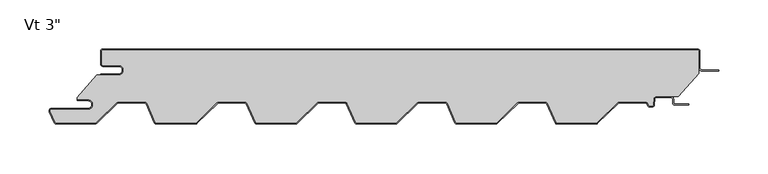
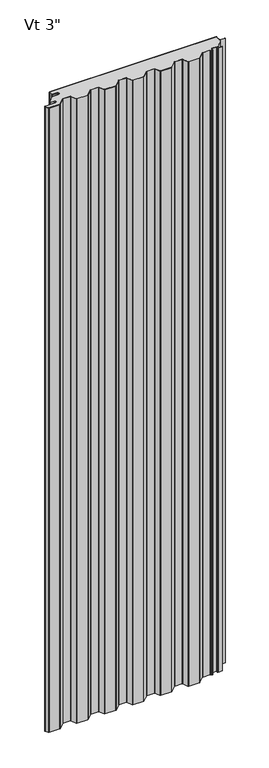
"""IFC4 building model written with IfcOpenShell, lengths in millimetres: plate geometry."""

from ifc_helpers import new_model, si_unit, point, frame_2d, origin, origin_with_axes, place, context, project, spatial, polyline, circle_curve, trimmed, segment, composite_curve, outline, extrude, source, transform, mapped, element, save


def plate_1c8a40f6(model_context):
    return source(origin(), model_context, "Body", "SweptSolid", [
        extrude(outline(composite_curve([segment(trimmed(circle_curve(frame_2d((-285.74375, -21.4324412)), 4.96875), [point((-285.74375, -26.4011912))], [point((-285.74375, -16.4636912))], True, "CARTESIAN"), True, "CONTINUOUS"), segment(polyline([(-285.74375, -16.4636912), (-301.61875, -16.4636912)]), True, "CONTINUOUS"), segment(trimmed(circle_curve(frame_2d((-301.61875, -15.0824412)), 1.38125), [point((-301.61875, -16.4636912))], [point((-303.0, -15.0824412))], False, "CARTESIAN"), True, "CONTINUOUS"), segment(polyline([(-303.0, -15.0824412), (-303.0, -2.3824412)]), True, "CONTINUOUS"), segment(trimmed(circle_curve(frame_2d((-301.61875, -2.3824412)), 1.38125), [point((-303.0, -2.3824412))], [point((-301.61875, -1.0011912))], False, "CARTESIAN"), True, "CONTINUOUS"), segment(polyline([(-301.61875, -1.0011912), (301.63125, -1.0011912)]), True, "CONTINUOUS"), segment(trimmed(circle_curve(frame_2d((301.63125, -2.3824412)), 1.38125), [point((301.63125, -1.0011912))], [point((303.0125, -2.3824412))], False, "CARTESIAN"), True, "CONTINUOUS"), segment(polyline([(303.0125, -2.3824412), (303.0125, -24.8719682), (282.1955434, -48.2136912), (259.7683457, -48.2136912)]), True, "CONTINUOUS"), segment(trimmed(circle_curve(frame_2d((259.7683457, -50.8011912)), 2.5875), [point((259.7683457, -48.2136912))], [point((257.1843918, -50.6657719))], True, "CARTESIAN"), True, "CONTINUOUS"), segment(polyline([(257.1843918, -50.6657719), (256.8823155, -56.4297302)]), True, "CONTINUOUS"), segment(trimmed(circle_curve(frame_2d((255.5029585, -56.3574412)), 1.38125), [point((256.8823155, -56.4297302))], [point((255.5029585, -57.7386912))], False, "CARTESIAN"), True, "CONTINUOUS"), segment(polyline([(255.5029585, -57.7386912), (253.1754519, -57.7386912)]), True, "CONTINUOUS"), segment(trimmed(circle_curve(frame_2d((253.1754519, -56.3574412)), 1.38125), [point((253.1754519, -57.7386912))], [point((251.9124516, -56.9166208))], False, "CARTESIAN"), True, "CONTINUOUS"), segment(polyline([(251.9124516, -56.9166208), (251.1640306, -55.2261871)]), True, "CONTINUOUS"), segment(trimmed(circle_curve(frame_2d((248.7980481, -56.2737)), 2.5875), [point((251.1640306, -55.2261871))], [point((248.7980481, -53.6862))], True, "CARTESIAN"), True, "CONTINUOUS"), segment(polyline([(248.7980481, -53.6862), (222.2742003, -53.6862)]), True, "CONTINUOUS"), segment(trimmed(circle_curve(frame_2d((222.2742003, -56.2737)), 2.5875), [point((222.2742003, -53.6862))], [point((220.4745496, -54.4145567))], True, "CARTESIAN"), True, "CONTINUOUS"), segment(polyline([(220.4745496, -54.4145567), (199.4036462, -74.8111912)]), True, "CONTINUOUS"), segment(trimmed(circle_curve(frame_2d((198.4429631, -73.81875)), 1.38125), [point((199.4036462, -74.8111912))], [point((198.4429631, -75.2))], False, "CARTESIAN"), True, "CONTINUOUS"), segment(polyline([(198.4429631, -75.2), (159.3062557, -75.2)]), True, "CONTINUOUS"), segment(trimmed(circle_curve(frame_2d((159.3062557, -73.81875)), 1.38125), [point((159.3062557, -75.2))], [point((158.0432554, -74.3779296))], False, "CARTESIAN"), True, "CONTINUOUS"), segment(polyline([(158.0432554, -74.3779296), (149.5640306, -55.2261871)]), True, "CONTINUOUS"), segment(trimmed(circle_curve(frame_2d((147.1980481, -56.2737)), 2.5875), [point((149.5640306, -55.2261871))], [point((147.1980481, -53.6862))], True, "CARTESIAN"), True, "CONTINUOUS"), segment(polyline([(147.1980481, -53.6862), (120.6742003, -53.6862)]), True, "CONTINUOUS"), segment(trimmed(circle_curve(frame_2d((120.6742003, -56.2737)), 2.5875), [point((120.6742003, -53.6862))], [point((118.8745496, -54.4145567))], True, "CARTESIAN"), True, "CONTINUOUS"), segment(polyline([(118.8745496, -54.4145567), (97.8036462, -74.8111912)]), True, "CONTINUOUS"), segment(trimmed(circle_curve(frame_2d((96.8429631, -73.81875)), 1.38125), [point((97.8036462, -74.8111912))], [point((96.8429631, -75.2))], False, "CARTESIAN"), True, "CONTINUOUS"), segment(polyline([(96.8429631, -75.2), (57.7062557, -75.2)]), True, "CONTINUOUS"), segment(trimmed(circle_curve(frame_2d((57.7062557, -73.81875)), 1.38125), [point((57.7062557, -75.2))], [point((56.4432554, -74.3779296))], False, "CARTESIAN"), True, "CONTINUOUS"), segment(polyline([(56.4432554, -74.3779296), (47.9640306, -55.2261871)]), True, "CONTINUOUS"), segment(trimmed(circle_curve(frame_2d((45.5980481, -56.2737)), 2.5875), [point((47.9640306, -55.2261871))], [point((45.5980481, -53.6862))], True, "CARTESIAN"), True, "CONTINUOUS"), segment(polyline([(45.5980481, -53.6862), (19.0742003, -53.6862)]), True, "CONTINUOUS"), segment(trimmed(circle_curve(frame_2d((19.0742003, -56.2737)), 2.5875), [point((19.0742003, -53.6862))], [point((17.2745496, -54.4145567))], True, "CARTESIAN"), True, "CONTINUOUS"), segment(polyline([(17.2745496, -54.4145567), (-3.7963538, -74.8111912)]), True, "CONTINUOUS"), segment(trimmed(circle_curve(frame_2d((-4.7570369, -73.81875)), 1.38125), [point((-3.7963538, -74.8111912))], [point((-4.7570369, -75.2))], False, "CARTESIAN"), True, "CONTINUOUS"), segment(polyline([(-4.7570369, -75.2), (-43.8937443, -75.2)]), True, "CONTINUOUS"), segment(trimmed(circle_curve(frame_2d((-43.8937443, -73.81875)), 1.38125), [point((-43.8937443, -75.2))], [point((-45.1567446, -74.3779296))], False, "CARTESIAN"), True, "CONTINUOUS"), segment(polyline([(-45.1567446, -74.3779296), (-53.6359694, -55.2261871)]), True, "CONTINUOUS"), segment(trimmed(circle_curve(frame_2d((-56.0019519, -56.2737)), 2.5875), [point((-53.6359694, -55.2261871))], [point((-56.0019519, -53.6862))], True, "CARTESIAN"), True, "CONTINUOUS"), segment(polyline([(-56.0019519, -53.6862), (-82.5257997, -53.6862)]), True, "CONTINUOUS"), segment(trimmed(circle_curve(frame_2d((-82.5257997, -56.2737)), 2.5875), [point((-82.5257997, -53.6862))], [point((-84.3254504, -54.4145567))], True, "CARTESIAN"), True, "CONTINUOUS"), segment(polyline([(-84.3254504, -54.4145567), (-105.3963538, -74.8111912)]), True, "CONTINUOUS"), segment(trimmed(circle_curve(frame_2d((-106.3570369, -73.81875)), 1.38125), [point((-105.3963538, -74.8111912))], [point((-106.3570369, -75.2))], False, "CARTESIAN"), True, "CONTINUOUS"), segment(polyline([(-106.3570369, -75.2), (-145.4937443, -75.2)]), True, "CONTINUOUS"), segment(trimmed(circle_curve(frame_2d((-145.4937443, -73.81875)), 1.38125), [point((-145.4937443, -75.2))], [point((-146.7567446, -74.3779296))], False, "CARTESIAN"), True, "CONTINUOUS"), segment(polyline([(-146.7567446, -74.3779296), (-155.2359694, -55.2261871)]), True, "CONTINUOUS"), segment(trimmed(circle_curve(frame_2d((-157.6019519, -56.2737)), 2.5875), [point((-155.2359694, -55.2261871))], [point((-157.6019519, -53.6862))], True, "CARTESIAN"), True, "CONTINUOUS"), segment(polyline([(-157.6019519, -53.6862), (-184.1257997, -53.6862)]), True, "CONTINUOUS"), segment(trimmed(circle_curve(frame_2d((-184.1257997, -56.2737)), 2.5875), [point((-184.1257997, -53.6862))], [point((-185.9254504, -54.4145567))], True, "CARTESIAN"), True, "CONTINUOUS"), segment(polyline([(-185.9254504, -54.4145567), (-206.9963538, -74.8111912)]), True, "CONTINUOUS"), segment(trimmed(circle_curve(frame_2d((-207.9570369, -73.81875)), 1.38125), [point((-206.9963538, -74.8111912))], [point((-207.9570369, -75.2))], False, "CARTESIAN"), True, "CONTINUOUS"), segment(polyline([(-207.9570369, -75.2), (-247.0937443, -75.2)]), True, "CONTINUOUS"), segment(trimmed(circle_curve(frame_2d((-247.0937443, -73.81875)), 1.38125), [point((-247.0937443, -75.2))], [point((-248.3567446, -74.3779296))], False, "CARTESIAN"), True, "CONTINUOUS"), segment(polyline([(-248.3567446, -74.3779296), (-256.8359694, -55.2261871)]), True, "CONTINUOUS"), segment(trimmed(circle_curve(frame_2d((-259.2019519, -56.2737)), 2.5875), [point((-256.8359694, -55.2261871))], [point((-259.2019519, -53.6862))], True, "CARTESIAN"), True, "CONTINUOUS"), segment(polyline([(-259.2019519, -53.6862), (-285.7257997, -53.6862)]), True, "CONTINUOUS"), segment(trimmed(circle_curve(frame_2d((-285.7257997, -56.2737)), 2.5875), [point((-285.7257997, -53.6862))], [point((-287.5254504, -54.4145567))], True, "CARTESIAN"), True, "CONTINUOUS"), segment(polyline([(-287.5254504, -54.4145567), (-308.3876931, -74.6092077)]), True, "CONTINUOUS"), segment(trimmed(circle_curve(frame_2d((-309.8474446, -73.1012)), 2.0988), [point((-308.3876931, -74.6092077))], [point((-309.8474446, -75.2))], False, "CARTESIAN"), True, "CONTINUOUS"), segment(polyline([(-309.8474446, -75.2), (-348.6937443, -75.2)]), True, "CONTINUOUS"), segment(trimmed(circle_curve(frame_2d((-348.6937443, -73.81875)), 1.38125), [point((-348.6937443, -75.2))], [point((-349.9567446, -74.3779296))], False, "CARTESIAN"), True, "CONTINUOUS"), segment(polyline([(-349.9567446, -74.3779296), (-354.8761552, -63.2666208)]), True, "CONTINUOUS"), segment(trimmed(circle_curve(frame_2d((-353.6131549, -62.7074412)), 1.38125), [point((-354.8761552, -63.2666208))], [point((-353.6131549, -61.3261912))], False, "CARTESIAN"), True, "CONTINUOUS"), segment(polyline([(-353.6131549, -61.3261912), (-316.7, -61.3261912)]), True, "CONTINUOUS"), segment(trimmed(circle_curve(frame_2d((-316.7, -56.3574412)), 4.96875), [point((-316.7, -61.3261912))], [point((-316.7, -51.3886912))], True, "CARTESIAN"), True, "CONTINUOUS"), segment(polyline([(-316.7, -51.3886912), (-327.8125, -51.3886912), (-327.8125, -49.233822), (-307.9914112, -26.4011912), (-285.74375, -26.4011912)]), True, "CONTINUOUS")], self_intersect=False)), origin_with_axes(), (0.0, 0.0, 1.0), 2400.0),
        extrude(outline(composite_curve([segment(polyline([(-304.0, -25.4), (-285.74375, -25.4)]), True, "CONTINUOUS"), segment(trimmed(circle_curve(frame_2d((-285.74375, -21.43125)), 3.96875), [point((-285.74375, -25.4))], [point((-285.74375, -17.4625))], True, "CARTESIAN"), True, "CONTINUOUS"), segment(polyline([(-285.74375, -17.4625), (-301.61875, -17.4625)]), True, "CONTINUOUS"), segment(trimmed(circle_curve(frame_2d((-301.61875, -15.08125)), 2.38125), [point((-301.61875, -17.4625))], [point((-304.0, -15.08125))], False, "CARTESIAN"), True, "CONTINUOUS"), segment(polyline([(-304.0, -15.08125), (-304.0, -2.38125)]), True, "CONTINUOUS"), segment(trimmed(circle_curve(frame_2d((-301.61875, -2.38125)), 2.38125), [point((-304.0, -2.38125))], [point((-301.61875, 0.0))], False, "CARTESIAN"), True, "CONTINUOUS"), segment(polyline([(-301.61875, 0.0), (301.63125, 0.0)]), True, "CONTINUOUS"), segment(trimmed(circle_curve(frame_2d((301.63125, -2.38125)), 2.38125), [point((301.63125, 0.0))], [point((304.0125, -2.38125))], False, "CARTESIAN"), True, "CONTINUOUS"), segment(polyline([(304.0125, -2.38125), (304.0125, -19.446875)]), True, "CONTINUOUS"), segment(trimmed(circle_curve(frame_2d((305.6, -19.446875)), 1.5875), [point((304.0125, -19.446875))], [point((305.6, -21.034375))], True, "CARTESIAN"), True, "CONTINUOUS"), segment(polyline([(305.6, -21.034375), (323.0625, -21.034375), (323.0625, -22.034375), (305.6, -22.034375)]), True, "CONTINUOUS"), segment(trimmed(circle_curve(frame_2d((305.6, -19.446875)), 2.5875), [point((305.6, -22.034375))], [point((303.0125, -19.446875))], False, "CARTESIAN"), True, "CONTINUOUS"), segment(polyline([(303.0125, -19.446875), (303.0125, -2.38125)]), True, "CONTINUOUS"), segment(trimmed(circle_curve(frame_2d((301.63125, -2.38125)), 1.38125), [point((303.0125, -2.38125))], [point((301.63125, -1.0))], True, "CARTESIAN"), True, "CONTINUOUS"), segment(polyline([(301.63125, -1.0), (-301.61875, -1.0)]), True, "CONTINUOUS"), segment(trimmed(circle_curve(frame_2d((-301.61875, -2.38125)), 1.38125), [point((-301.61875, -1.0))], [point((-303.0, -2.38125))], True, "CARTESIAN"), True, "CONTINUOUS"), segment(polyline([(-303.0, -2.38125), (-303.0, -15.08125)]), True, "CONTINUOUS"), segment(trimmed(circle_curve(frame_2d((-301.61875, -15.08125)), 1.38125), [point((-303.0, -15.08125))], [point((-301.61875, -16.4625))], True, "CARTESIAN"), True, "CONTINUOUS"), segment(polyline([(-301.61875, -16.4625), (-285.74375, -16.4625)]), True, "CONTINUOUS"), segment(trimmed(circle_curve(frame_2d((-285.74375, -21.43125)), 4.96875), [point((-285.74375, -16.4625))], [point((-285.74375, -26.4))], False, "CARTESIAN"), True, "CONTINUOUS"), segment(polyline([(-285.74375, -26.4), (-304.0, -26.4), (-304.0, -25.4)]), True, "CONTINUOUS")], self_intersect=False)), origin_with_axes(), (0.0, 0.0, 1.0), 2400.0),
        extrude(outline(composite_curve([segment(trimmed(circle_curve(frame_2d((-316.7, -56.3574412)), 3.96875), [point((-316.7, -60.3261912))], [point((-316.7, -52.3886912))], True, "CARTESIAN"), True, "CONTINUOUS"), segment(polyline([(-316.7, -52.3886912), (-327.8125, -52.3886912), (-327.8125, -51.3886912), (-316.7, -51.3886912)]), True, "CONTINUOUS"), segment(trimmed(circle_curve(frame_2d((-316.7, -56.3574412)), 4.96875), [point((-316.7, -51.3886912))], [point((-316.7, -61.3261912))], False, "CARTESIAN"), True, "CONTINUOUS"), segment(polyline([(-316.7, -61.3261912), (-353.6131549, -61.3261912)]), True, "CONTINUOUS"), segment(trimmed(circle_curve(frame_2d((-353.6131549, -62.7074412)), 1.38125), [point((-353.6131549, -61.3261912))], [point((-354.8761552, -63.2666208))], True, "CARTESIAN"), True, "CONTINUOUS"), segment(polyline([(-354.8761552, -63.2666208), (-349.9567446, -74.3779296)]), True, "CONTINUOUS"), segment(trimmed(circle_curve(frame_2d((-348.6937443, -73.81875)), 1.38125), [point((-349.9567446, -74.3779296))], [point((-348.6937443, -75.2))], True, "CARTESIAN"), True, "CONTINUOUS"), segment(polyline([(-348.6937443, -75.2), (-309.8474446, -75.2)]), True, "CONTINUOUS"), segment(trimmed(circle_curve(frame_2d((-309.8474446, -73.1012)), 2.0988), [point((-309.8474446, -75.2))], [point((-308.3876931, -74.6092077))], True, "CARTESIAN"), True, "CONTINUOUS"), segment(polyline([(-308.3876931, -74.6092077), (-287.5254504, -54.4145567)]), True, "CONTINUOUS"), segment(trimmed(circle_curve(frame_2d((-285.7257997, -56.2737)), 2.5875), [point((-287.5254504, -54.4145567))], [point((-285.7257997, -53.6862))], False, "CARTESIAN"), True, "CONTINUOUS"), segment(polyline([(-285.7257997, -53.6862), (-259.2019519, -53.6862)]), True, "CONTINUOUS"), segment(trimmed(circle_curve(frame_2d((-259.2019519, -56.2737)), 2.5875), [point((-259.2019519, -53.6862))], [point((-256.8359694, -55.2261871))], False, "CARTESIAN"), True, "CONTINUOUS"), segment(polyline([(-256.8359694, -55.2261871), (-248.3567446, -74.3779296)]), True, "CONTINUOUS"), segment(trimmed(circle_curve(frame_2d((-247.0937443, -73.81875)), 1.38125), [point((-248.3567446, -74.3779296))], [point((-247.0937443, -75.2))], True, "CARTESIAN"), True, "CONTINUOUS"), segment(polyline([(-247.0937443, -75.2), (-207.9570369, -75.2)]), True, "CONTINUOUS"), segment(trimmed(circle_curve(frame_2d((-207.9570369, -73.81875)), 1.38125), [point((-207.9570369, -75.2))], [point((-206.9963538, -74.8111912))], True, "CARTESIAN"), True, "CONTINUOUS"), segment(polyline([(-206.9963538, -74.8111912), (-185.9254504, -54.4145567)]), True, "CONTINUOUS"), segment(trimmed(circle_curve(frame_2d((-184.1257997, -56.2737)), 2.5875), [point((-185.9254504, -54.4145567))], [point((-184.1257997, -53.6862))], False, "CARTESIAN"), True, "CONTINUOUS"), segment(polyline([(-184.1257997, -53.6862), (-157.6019519, -53.6862)]), True, "CONTINUOUS"), segment(trimmed(circle_curve(frame_2d((-157.6019519, -56.2737)), 2.5875), [point((-157.6019519, -53.6862))], [point((-155.2359694, -55.2261871))], False, "CARTESIAN"), True, "CONTINUOUS"), segment(polyline([(-155.2359694, -55.2261871), (-146.7567446, -74.3779296)]), True, "CONTINUOUS"), segment(trimmed(circle_curve(frame_2d((-145.4937443, -73.81875)), 1.38125), [point((-146.7567446, -74.3779296))], [point((-145.4937443, -75.2))], True, "CARTESIAN"), True, "CONTINUOUS"), segment(polyline([(-145.4937443, -75.2), (-106.3570369, -75.2)]), True, "CONTINUOUS"), segment(trimmed(circle_curve(frame_2d((-106.3570369, -73.81875)), 1.38125), [point((-106.3570369, -75.2))], [point((-105.3963538, -74.8111912))], True, "CARTESIAN"), True, "CONTINUOUS"), segment(polyline([(-105.3963538, -74.8111912), (-84.3254504, -54.4145567)]), True, "CONTINUOUS"), segment(trimmed(circle_curve(frame_2d((-82.5257997, -56.2737)), 2.5875), [point((-84.3254504, -54.4145567))], [point((-82.5257997, -53.6862))], False, "CARTESIAN"), True, "CONTINUOUS"), segment(polyline([(-82.5257997, -53.6862), (-56.0019519, -53.6862)]), True, "CONTINUOUS"), segment(trimmed(circle_curve(frame_2d((-56.0019519, -56.2737)), 2.5875), [point((-56.0019519, -53.6862))], [point((-53.6359694, -55.2261871))], False, "CARTESIAN"), True, "CONTINUOUS"), segment(polyline([(-53.6359694, -55.2261871), (-45.1567446, -74.3779296)]), True, "CONTINUOUS"), segment(trimmed(circle_curve(frame_2d((-43.8937443, -73.81875)), 1.38125), [point((-45.1567446, -74.3779296))], [point((-43.8937443, -75.2))], True, "CARTESIAN"), True, "CONTINUOUS"), segment(polyline([(-43.8937443, -75.2), (-4.7570369, -75.2)]), True, "CONTINUOUS"), segment(trimmed(circle_curve(frame_2d((-4.7570369, -73.81875)), 1.38125), [point((-4.7570369, -75.2))], [point((-3.7963538, -74.8111912))], True, "CARTESIAN"), True, "CONTINUOUS"), segment(polyline([(-3.7963538, -74.8111912), (17.2745496, -54.4145567)]), True, "CONTINUOUS"), segment(trimmed(circle_curve(frame_2d((19.0742003, -56.2737)), 2.5875), [point((17.2745496, -54.4145567))], [point((19.0742003, -53.6862))], False, "CARTESIAN"), True, "CONTINUOUS"), segment(polyline([(19.0742003, -53.6862), (45.5980481, -53.6862)]), True, "CONTINUOUS"), segment(trimmed(circle_curve(frame_2d((45.5980481, -56.2737)), 2.5875), [point((45.5980481, -53.6862))], [point((47.9640306, -55.2261871))], False, "CARTESIAN"), True, "CONTINUOUS"), segment(polyline([(47.9640306, -55.2261871), (56.4432554, -74.3779296)]), True, "CONTINUOUS"), segment(trimmed(circle_curve(frame_2d((57.7062557, -73.81875)), 1.38125), [point((56.4432554, -74.3779296))], [point((57.7062557, -75.2))], True, "CARTESIAN"), True, "CONTINUOUS"), segment(polyline([(57.7062557, -75.2), (96.8429631, -75.2)]), True, "CONTINUOUS"), segment(trimmed(circle_curve(frame_2d((96.8429631, -73.81875)), 1.38125), [point((96.8429631, -75.2))], [point((97.8036462, -74.8111912))], True, "CARTESIAN"), True, "CONTINUOUS"), segment(polyline([(97.8036462, -74.8111912), (118.8745496, -54.4145567)]), True, "CONTINUOUS"), segment(trimmed(circle_curve(frame_2d((120.6742003, -56.2737)), 2.5875), [point((118.8745496, -54.4145567))], [point((120.6742003, -53.6862))], False, "CARTESIAN"), True, "CONTINUOUS"), segment(polyline([(120.6742003, -53.6862), (147.1980481, -53.6862)]), True, "CONTINUOUS"), segment(trimmed(circle_curve(frame_2d((147.1980481, -56.2737)), 2.5875), [point((147.1980481, -53.6862))], [point((149.5640306, -55.2261871))], False, "CARTESIAN"), True, "CONTINUOUS"), segment(polyline([(149.5640306, -55.2261871), (158.0432554, -74.3779296)]), True, "CONTINUOUS"), segment(trimmed(circle_curve(frame_2d((159.3062557, -73.81875)), 1.38125), [point((158.0432554, -74.3779296))], [point((159.3062557, -75.2))], True, "CARTESIAN"), True, "CONTINUOUS"), segment(polyline([(159.3062557, -75.2), (198.4429631, -75.2)]), True, "CONTINUOUS"), segment(trimmed(circle_curve(frame_2d((198.4429631, -73.81875)), 1.38125), [point((198.4429631, -75.2))], [point((199.4036462, -74.8111912))], True, "CARTESIAN"), True, "CONTINUOUS"), segment(polyline([(199.4036462, -74.8111912), (220.4745496, -54.4145567)]), True, "CONTINUOUS"), segment(trimmed(circle_curve(frame_2d((222.2742003, -56.2737)), 2.5875), [point((220.4745496, -54.4145567))], [point((222.2742003, -53.6862))], False, "CARTESIAN"), True, "CONTINUOUS"), segment(polyline([(222.2742003, -53.6862), (248.7980481, -53.6862)]), True, "CONTINUOUS"), segment(trimmed(circle_curve(frame_2d((248.7980481, -56.2737)), 2.5875), [point((248.7980481, -53.6862))], [point((251.1640306, -55.2261871))], False, "CARTESIAN"), True, "CONTINUOUS"), segment(polyline([(251.1640306, -55.2261871), (251.9124516, -56.9166208)]), True, "CONTINUOUS"), segment(trimmed(circle_curve(frame_2d((253.1754519, -56.3574412)), 1.38125), [point((251.9124516, -56.9166208))], [point((253.1754519, -57.7386912))], True, "CARTESIAN"), True, "CONTINUOUS"), segment(polyline([(253.1754519, -57.7386912), (255.5029585, -57.7386912)]), True, "CONTINUOUS"), segment(trimmed(circle_curve(frame_2d((255.5029585, -56.3574412)), 1.38125), [point((255.5029585, -57.7386912))], [point((256.8823155, -56.4297302))], True, "CARTESIAN"), True, "CONTINUOUS"), segment(polyline([(256.8823155, -56.4297302), (257.1843918, -50.6657719)]), True, "CONTINUOUS"), segment(trimmed(circle_curve(frame_2d((259.7683457, -50.8011912)), 2.5875), [point((257.1843918, -50.6657719))], [point((259.7683457, -48.2136912))], False, "CARTESIAN"), True, "CONTINUOUS"), segment(polyline([(259.7683457, -48.2136912), (274.64375, -48.2136912)]), True, "CONTINUOUS"), segment(trimmed(circle_curve(frame_2d((274.64375, -50.8011912)), 2.5875), [point((274.64375, -48.2136912))], [point((277.23125, -50.8011912))], False, "CARTESIAN"), True, "CONTINUOUS"), segment(polyline([(277.23125, -50.8011912), (277.23125, -54.3730662)]), True, "CONTINUOUS"), segment(trimmed(circle_curve(frame_2d((278.6125, -54.3730662)), 1.38125), [point((277.23125, -54.3730662))], [point((278.6125, -55.7543162))], True, "CARTESIAN"), True, "CONTINUOUS"), segment(polyline([(278.6125, -55.7543162), (292.9, -55.7543162), (292.9, -56.7543162), (278.6125, -56.7543162)]), True, "CONTINUOUS"), segment(trimmed(circle_curve(frame_2d((278.6125, -54.3730662)), 2.38125), [point((278.6125, -56.7543162))], [point((276.23125, -54.3730662))], False, "CARTESIAN"), True, "CONTINUOUS"), segment(polyline([(276.23125, -54.3730662), (276.23125, -50.8011912)]), True, "CONTINUOUS"), segment(trimmed(circle_curve(frame_2d((274.64375, -50.8011912)), 1.5875), [point((276.23125, -50.8011912))], [point((274.64375, -49.2136912))], True, "CARTESIAN"), True, "CONTINUOUS"), segment(polyline([(274.64375, -49.2136912), (259.7683457, -49.2136912)]), True, "CONTINUOUS"), segment(trimmed(circle_curve(frame_2d((259.7683457, -50.8011912)), 1.5875), [point((259.7683457, -49.2136912))], [point((258.1830213, -50.7181078))], True, "CARTESIAN"), True, "CONTINUOUS"), segment(polyline([(258.1830213, -50.7181078), (257.8809451, -56.4820662)]), True, "CONTINUOUS"), segment(trimmed(circle_curve(frame_2d((255.5029585, -56.3574412)), 2.38125), [point((257.8809451, -56.4820662))], [point((255.5029585, -58.7386912))], False, "CARTESIAN"), True, "CONTINUOUS"), segment(polyline([(255.5029585, -58.7386912), (253.1754519, -58.7386912)]), True, "CONTINUOUS"), segment(trimmed(circle_curve(frame_2d((253.1754519, -56.3574412)), 2.38125), [point((253.1754519, -58.7386912))], [point((250.9980623, -57.3214567))], False, "CARTESIAN"), True, "CONTINUOUS"), segment(polyline([(250.9980623, -57.3214567), (250.2496412, -55.631023)]), True, "CONTINUOUS"), segment(trimmed(circle_curve(frame_2d((248.7980481, -56.2737)), 1.5875), [point((250.2496412, -55.631023))], [point((248.7980481, -54.6862))], True, "CARTESIAN"), True, "CONTINUOUS"), segment(polyline([(248.7980481, -54.6862), (222.2742003, -54.6862)]), True, "CONTINUOUS"), segment(trimmed(circle_curve(frame_2d((222.2742003, -56.2737)), 1.5875), [point((222.2742003, -54.6862))], [point((221.1700668, -55.1330662))], True, "CARTESIAN"), True, "CONTINUOUS"), segment(polyline([(221.1700668, -55.1330662), (200.0991634, -75.5297007)]), True, "CONTINUOUS"), segment(trimmed(circle_curve(frame_2d((198.4429631, -73.81875)), 2.38125), [point((200.0991634, -75.5297007))], [point((198.4429631, -76.2))], False, "CARTESIAN"), True, "CONTINUOUS"), segment(polyline([(198.4429631, -76.2), (159.3062557, -76.2)]), True, "CONTINUOUS"), segment(trimmed(circle_curve(frame_2d((159.3062557, -73.81875)), 2.38125), [point((159.3062557, -76.2))], [point((157.1288661, -74.7827655))], False, "CARTESIAN"), True, "CONTINUOUS"), segment(polyline([(157.1288661, -74.7827655), (148.6496412, -55.631023)]), True, "CONTINUOUS"), segment(trimmed(circle_curve(frame_2d((147.1980481, -56.2737)), 1.5875), [point((148.6496412, -55.631023))], [point((147.1980481, -54.6862))], True, "CARTESIAN"), True, "CONTINUOUS"), segment(polyline([(147.1980481, -54.6862), (120.6742003, -54.6862)]), True, "CONTINUOUS"), segment(trimmed(circle_curve(frame_2d((120.6742003, -56.2737)), 1.5875), [point((120.6742003, -54.6862))], [point((119.5700668, -55.1330662))], True, "CARTESIAN"), True, "CONTINUOUS"), segment(polyline([(119.5700668, -55.1330662), (98.4991634, -75.5297007)]), True, "CONTINUOUS"), segment(trimmed(circle_curve(frame_2d((96.8429631, -73.81875)), 2.38125), [point((98.4991634, -75.5297007))], [point((96.8429631, -76.2))], False, "CARTESIAN"), True, "CONTINUOUS"), segment(polyline([(96.8429631, -76.2), (57.7062557, -76.2)]), True, "CONTINUOUS"), segment(trimmed(circle_curve(frame_2d((57.7062557, -73.81875)), 2.38125), [point((57.7062557, -76.2))], [point((55.5288661, -74.7827655))], False, "CARTESIAN"), True, "CONTINUOUS"), segment(polyline([(55.5288661, -74.7827655), (47.0496412, -55.631023)]), True, "CONTINUOUS"), segment(trimmed(circle_curve(frame_2d((45.5980481, -56.2737)), 1.5875), [point((47.0496412, -55.631023))], [point((45.5980481, -54.6862))], True, "CARTESIAN"), True, "CONTINUOUS"), segment(polyline([(45.5980481, -54.6862), (19.0742003, -54.6862)]), True, "CONTINUOUS"), segment(trimmed(circle_curve(frame_2d((19.0742003, -56.2737)), 1.5875), [point((19.0742003, -54.6862))], [point((17.9700668, -55.1330662))], True, "CARTESIAN"), True, "CONTINUOUS"), segment(polyline([(17.9700668, -55.1330662), (-3.1008366, -75.5297007)]), True, "CONTINUOUS"), segment(trimmed(circle_curve(frame_2d((-4.7570369, -73.81875)), 2.38125), [point((-3.1008366, -75.5297007))], [point((-4.7570369, -76.2))], False, "CARTESIAN"), True, "CONTINUOUS"), segment(polyline([(-4.7570369, -76.2), (-43.8937443, -76.2)]), True, "CONTINUOUS"), segment(trimmed(circle_curve(frame_2d((-43.8937443, -73.81875)), 2.38125), [point((-43.8937443, -76.2))], [point((-46.0711339, -74.7827655))], False, "CARTESIAN"), True, "CONTINUOUS"), segment(polyline([(-46.0711339, -74.7827655), (-54.5503588, -55.631023)]), True, "CONTINUOUS"), segment(trimmed(circle_curve(frame_2d((-56.0019519, -56.2737)), 1.5875), [point((-54.5503588, -55.631023))], [point((-56.0019519, -54.6862))], True, "CARTESIAN"), True, "CONTINUOUS"), segment(polyline([(-56.0019519, -54.6862), (-82.5257997, -54.6862)]), True, "CONTINUOUS"), segment(trimmed(circle_curve(frame_2d((-82.5257997, -56.2737)), 1.5875), [point((-82.5257997, -54.6862))], [point((-83.6299332, -55.1330662))], True, "CARTESIAN"), True, "CONTINUOUS"), segment(polyline([(-83.6299332, -55.1330662), (-104.7008366, -75.5297007)]), True, "CONTINUOUS"), segment(trimmed(circle_curve(frame_2d((-106.3570369, -73.81875)), 2.38125), [point((-104.7008366, -75.5297007))], [point((-106.3570369, -76.2))], False, "CARTESIAN"), True, "CONTINUOUS"), segment(polyline([(-106.3570369, -76.2), (-145.4937443, -76.2)]), True, "CONTINUOUS"), segment(trimmed(circle_curve(frame_2d((-145.4937443, -73.81875)), 2.38125), [point((-145.4937443, -76.2))], [point((-147.6711339, -74.7827655))], False, "CARTESIAN"), True, "CONTINUOUS"), segment(polyline([(-147.6711339, -74.7827655), (-156.1503588, -55.631023)]), True, "CONTINUOUS"), segment(trimmed(circle_curve(frame_2d((-157.6019519, -56.2737)), 1.5875), [point((-156.1503588, -55.631023))], [point((-157.6019519, -54.6862))], True, "CARTESIAN"), True, "CONTINUOUS"), segment(polyline([(-157.6019519, -54.6862), (-184.1257997, -54.6862)]), True, "CONTINUOUS"), segment(trimmed(circle_curve(frame_2d((-184.1257997, -56.2737)), 1.5875), [point((-184.1257997, -54.6862))], [point((-185.2299332, -55.1330662))], True, "CARTESIAN"), True, "CONTINUOUS"), segment(polyline([(-185.2299332, -55.1330662), (-206.3008366, -75.5297007)]), True, "CONTINUOUS"), segment(trimmed(circle_curve(frame_2d((-207.9570369, -73.81875)), 2.38125), [point((-206.3008366, -75.5297007))], [point((-207.9570369, -76.2))], False, "CARTESIAN"), True, "CONTINUOUS"), segment(polyline([(-207.9570369, -76.2), (-247.0937443, -76.2)]), True, "CONTINUOUS"), segment(trimmed(circle_curve(frame_2d((-247.0937443, -73.81875)), 2.38125), [point((-247.0937443, -76.2))], [point((-249.2711339, -74.7827655))], False, "CARTESIAN"), True, "CONTINUOUS"), segment(polyline([(-249.2711339, -74.7827655), (-257.7503588, -55.631023)]), True, "CONTINUOUS"), segment(trimmed(circle_curve(frame_2d((-259.2019519, -56.2737)), 1.5875), [point((-257.7503588, -55.631023))], [point((-259.2019519, -54.6862))], True, "CARTESIAN"), True, "CONTINUOUS"), segment(polyline([(-259.2019519, -54.6862), (-285.7257997, -54.6862)]), True, "CONTINUOUS"), segment(trimmed(circle_curve(frame_2d((-285.7257997, -56.2737)), 1.5875), [point((-285.7257997, -54.6862))], [point((-286.8299332, -55.1330662))], True, "CARTESIAN"), True, "CONTINUOUS"), segment(polyline([(-286.8299332, -55.1330662), (-307.6921759, -75.3277172)]), True, "CONTINUOUS"), segment(trimmed(circle_curve(frame_2d((-309.8474446, -73.1012)), 3.0988), [point((-307.6921759, -75.3277172))], [point((-309.8474446, -76.2))], False, "CARTESIAN"), True, "CONTINUOUS"), segment(polyline([(-309.8474446, -76.2), (-348.6937443, -76.2)]), True, "CONTINUOUS"), segment(trimmed(circle_curve(frame_2d((-348.6937443, -73.81875)), 2.38125), [point((-348.6937443, -76.2))], [point((-350.8711339, -74.7827655))], False, "CARTESIAN"), True, "CONTINUOUS"), segment(polyline([(-350.8711339, -74.7827655), (-355.7905446, -63.6714567)]), True, "CONTINUOUS"), segment(trimmed(circle_curve(frame_2d((-353.6131549, -62.7074412)), 2.38125), [point((-355.7905446, -63.6714567))], [point((-353.6131549, -60.3261912))], False, "CARTESIAN"), True, "CONTINUOUS"), segment(polyline([(-353.6131549, -60.3261912), (-316.7, -60.3261912)]), True, "CONTINUOUS")], self_intersect=False)), origin_with_axes(), (0.0, 0.0, 1.0), 2400.0),
    ])


if __name__ == "__main__":
    model = new_model("IFC4")
    model_context = context("Model", 3, world=origin())
    ifc_project = project(units=[si_unit("LENGTHUNIT", "METRE", prefix="MILLI")], contexts=[model_context])
    site = spatial("IfcSite", under=ifc_project)
    building = spatial("IfcBuilding", under=site)
    placement = place(None, origin())
    plate_shape = plate_1c8a40f6(model_context)
    element("IfcPlate", 1, ObjectType="KIP-24-DWR-R19-CP-Vt-S : Vt 3\"", at=placement, inside=building, context=model_context, shape_type="MappedRepresentation", body=[
        mapped(plate_shape, transform((0.0, 0.0, 0.0), x_axis=(1.0, 0.0, 0.0), y_axis=(0.0, 1.0, 0.0), z_axis=(0.0, 0.0, 1.0))),
    ])
    save(model, "model.ifc")
